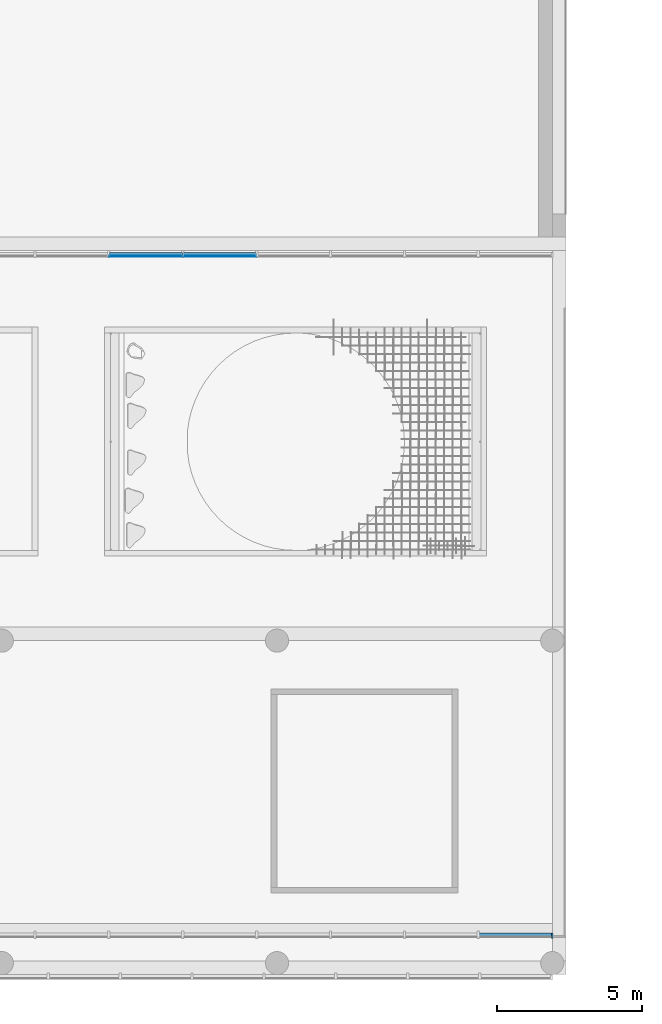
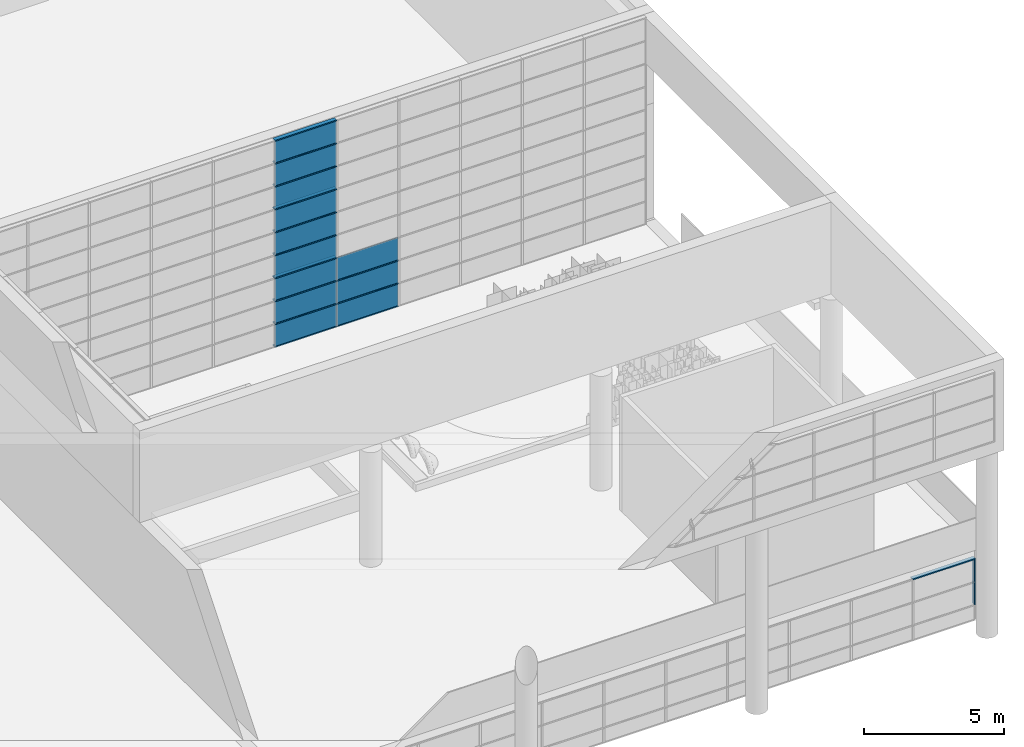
# One storey, part 55 of 105: 30 building element parts, 4 elements without a shape of their own.
"""IFC4 building model written with IfcOpenShell, lengths in millimetres."""

from ifc_helpers import new_model, entity, si_unit, converted_unit, derived_unit, direction, frame, origin_with_axes, place, context, subcontext, project, spatial, triangles, material, element, aggregate, save


model = new_model("IFC4")

# Units and contexts
model_context = context("Model", 3, precision=1e-05, world=origin_with_axes(), true_north=direction((0.0, 1.0)))
body_context = subcontext(model_context, "Body", "Model", "MODEL_VIEW")
ifc_project = project(units=[si_unit("LENGTHUNIT", "METRE", prefix="MILLI"), si_unit("AREAUNIT", "SQUARE_METRE"), si_unit("VOLUMEUNIT", "CUBIC_METRE"), converted_unit("PLANEANGLEUNIT", "DEGREE", entity("IfcLengthMeasure", 0.017453), si_unit("PLANEANGLEUNIT", "RADIAN"), dimensions=[0, 0, 0, 0, 0, 0, 0]), si_unit("SOLIDANGLEUNIT", "STERADIAN"), si_unit("MASSUNIT", "GRAM"), si_unit("TIMEUNIT", "SECOND"), si_unit("THERMODYNAMICTEMPERATUREUNIT", "DEGREE_CELSIUS"), si_unit("LUMINOUSINTENSITYUNIT", "LUMEN"), si_unit("POWERUNIT", "WATT"), derived_unit("THERMALTRANSMITTANCEUNIT", [(si_unit("POWERUNIT", "WATT"), 1), (si_unit("THERMODYNAMICTEMPERATUREUNIT", "KELVIN"), -1), (si_unit("AREAUNIT", "SQUARE_METRE"), -1)])], contexts=[model_context])

# Site, building, storey
site_placement = place(None, origin_with_axes())
site = spatial("IfcSite", under=ifc_project, at=site_placement, Name="Default Site", CompositionType="ELEMENT")
building_placement = place(site_placement, origin_with_axes())
building = spatial("IfcBuilding", under=site, at=building_placement, Name="Default Building", CompositionType="ELEMENT")
storey_placement = place(building_placement, origin_with_axes())
storey = spatial("IfcBuildingStorey", under=building, at=storey_placement, Name="OG - Story", CompositionType="ELEMENT", Elevation=0.0)

# Curtain wall, building element parts
curtain_wall_1_placement = place(storey_placement, origin_with_axes())
curtain_wall_1 = element("IfcCurtainWall", 1, at=curtain_wall_1_placement, inside=storey, Name="Fassade-001", PredefinedType="NOTDEFINED")
ifc_material_1 = material(Name="Blech")
building_element_part_1_placement = place(curtain_wall_1_placement, frame((52496.845873, -51289.262838, 0.0), z_axis=(0.0, 0.0, 1.0), x_axis=(1.0, 0.0, 0.0)))
building_element_part_1 = element("IfcBuildingElementPart", 2, at=building_element_part_1_placement, material=ifc_material_1, Name="Blech", PredefinedType="NOTDEFINED", context=body_context, shape_type="Tessellation", body=[
    triangles([(26779.545, -14.999, 1650.0), (26779.545, 15.0, 1650.0), (26809.545, 133.0, 1650.0), (26809.545, -34.999, 1650.0), (26759.545, -34.999, 1650.0), (26759.545, -14.999, 1650.0), (26759.545, 15.0, 1650.0), (26759.545, 133.0, 1650.0), (26779.545, 15.0, 650.0), (26779.545, -14.999, 650.0), (26759.545, -14.999, 650.0), (26759.545, -34.999, 650.0), (26809.545, -34.999, 650.0), (26809.545, 133.0, 650.0), (26759.545, 133.0, 650.0), (26759.545, 15.0, 650.0)], [[1, 2, 3], [1, 3, 4], [1, 4, 5], [1, 5, 6], [7, 8, 3], [7, 3, 2], [1, 2, 9], [1, 9, 10], [11, 6, 1], [11, 1, 10], [6, 11, 12], [6, 12, 5], [13, 4, 5], [13, 5, 12], [14, 3, 4], [14, 4, 13], [15, 8, 3], [15, 3, 14], [16, 7, 8], [16, 8, 15], [2, 7, 16], [2, 16, 9], [10, 9, 14], [10, 14, 13], [10, 13, 12], [10, 12, 11], [16, 15, 14], [16, 14, 9]], closed=False),
])
building_element_part_2_placement = place(curtain_wall_1_placement, frame((52496.845873, -51289.262838, 0.0), z_axis=(0.0, 0.0, 1.0), x_axis=(1.0, 0.0, 0.0)))
building_element_part_2 = element("IfcBuildingElementPart", 3, at=building_element_part_2_placement, material=ifc_material_1, Name="Blech", PredefinedType="NOTDEFINED", context=body_context, shape_type="Tessellation", body=[
    triangles([(26759.545, 15.0, 2625.0), (26759.545, 133.0, 2625.0), (26779.545, 15.0, 2645.0), (26809.545, 133.0, 2675.0), (26779.545, -14.999, 2645.0), (26809.545, -34.999, 2675.0), (26759.545, -14.999, 2625.0), (26759.545, -34.999, 2625.0), (26779.545, 15.0, 1650.0), (26779.545, -14.999, 1650.0), (26759.545, -14.999, 1650.0), (26759.545, -34.999, 1650.0), (26809.545, -34.999, 1650.0), (26809.545, 133.0, 1650.0), (26759.545, 133.0, 1650.0), (26759.545, 15.0, 1650.0)], [[1, 2, 3], [3, 2, 4], [3, 4, 5], [5, 4, 6], [5, 6, 7], [7, 6, 8], [5, 3, 9], [5, 9, 10], [11, 7, 5], [11, 5, 10], [7, 11, 12], [7, 12, 8], [13, 6, 8], [13, 8, 12], [14, 4, 6], [14, 6, 13], [15, 2, 4], [15, 4, 14], [16, 1, 2], [16, 2, 15], [3, 1, 16], [3, 16, 9], [10, 9, 14], [10, 14, 13], [10, 13, 12], [10, 12, 11], [16, 15, 14], [16, 14, 9]], closed=False),
])
building_element_part_3_placement = place(curtain_wall_1_placement, frame((52496.845873, -51289.262838, 0.0), z_axis=(0.0, 0.0, 1.0), x_axis=(1.0, 0.0, 0.0)))
building_element_part_3 = element("IfcBuildingElementPart", 4, at=building_element_part_3_placement, material=ifc_material_1, Name="Blech", PredefinedType="NOTDEFINED", context=body_context, shape_type="Tessellation", body=[
    triangles([(26759.545, 15.0, 2625.0), (26759.545, 133.0, 2625.0), (26779.545, 15.0, 2645.0), (26809.545, 133.0, 2675.0), (26779.545, -14.999, 2645.0), (26809.545, -34.999, 2675.0), (26759.545, -14.999, 2625.0), (26759.545, -34.999, 2625.0), (24233.636, 15.0, 2645.0), (24233.636, 15.0, 2625.0), (24233.636, 133.0, 2625.0), (24233.636, 133.0, 2675.0), (24233.636, -34.999, 2675.0), (24233.636, -34.999, 2625.0), (24233.636, -14.999, 2625.0), (24233.636, -14.999, 2645.0)], [[1, 2, 3], [3, 2, 4], [3, 4, 5], [5, 4, 6], [5, 6, 7], [7, 6, 8], [3, 9, 10], [3, 10, 1], [10, 11, 2], [10, 2, 1], [11, 12, 4], [11, 4, 2], [12, 13, 6], [12, 6, 4], [13, 14, 8], [13, 8, 6], [7, 8, 14], [7, 14, 15], [15, 16, 5], [15, 5, 7], [5, 16, 9], [5, 9, 3], [10, 11, 9], [9, 11, 12], [9, 12, 16], [16, 12, 13], [16, 13, 15], [15, 13, 14]], closed=False),
])
aggregate(curtain_wall_1, [building_element_part_1, building_element_part_2, building_element_part_3])

curtain_wall_2_placement = place(storey_placement, origin_with_axes())
curtain_wall_2 = element("IfcCurtainWall", 5, at=curtain_wall_2_placement, inside=storey, Name="Fassade-005", PredefinedType="NOTDEFINED")
ifc_material_2 = material(Name="Normalglas")
building_element_part_4_placement = place(curtain_wall_2_placement, frame((52496.845873, -27789.262838, 3000.0), z_axis=(0.0, 0.0, 1.0), x_axis=(1.0, 0.0, 0.0)))
building_element_part_4 = element("IfcBuildingElementPart", 6, at=building_element_part_4_placement, material=ifc_material_2, Name="Normalglas", PredefinedType="NOTDEFINED", context=body_context, shape_type="Tessellation", body=[
    triangles([(14020.0, 15.0, 995.0), (11489.091, 15.0, 995.0), (11489.091, -14.999, 995.0), (14020.0, -14.999, 995.0), (14020.0, 15.0, 5.0), (11489.091, 15.0, 5.0), (11489.091, -14.999, 5.0), (14020.0, -14.999, 5.0)], [[1, 2, 3], [1, 3, 4], [1, 5, 6], [1, 6, 2], [2, 6, 7], [2, 7, 3], [4, 3, 7], [4, 7, 8], [5, 1, 4], [5, 4, 8], [6, 5, 8], [6, 8, 7]], closed=False),
])
building_element_part_5_placement = place(curtain_wall_2_placement, frame((52496.845873, -27789.262838, 3000.0), z_axis=(0.0, 0.0, 1.0), x_axis=(1.0, 0.0, 0.0)))
building_element_part_5 = element("IfcBuildingElementPart", 7, at=building_element_part_5_placement, material=ifc_material_2, Name="Normalglas", PredefinedType="NOTDEFINED", context=body_context, shape_type="Tessellation", body=[
    triangles([(16570.909, 15.0, 995.0), (14040.0, 15.0, 995.0), (14040.0, -14.999, 995.0), (16570.909, -14.999, 995.0), (16570.909, 15.0, 5.0), (14040.0, 15.0, 5.0), (14040.0, -14.999, 5.0), (16570.909, -14.999, 5.0)], [[1, 2, 3], [1, 3, 4], [1, 5, 6], [1, 6, 2], [2, 6, 7], [2, 7, 3], [4, 3, 7], [4, 7, 8], [5, 1, 4], [5, 4, 8], [6, 5, 8], [6, 8, 7]], closed=False),
])
building_element_part_6_placement = place(curtain_wall_2_placement, frame((52496.845873, -27789.262838, 3000.0), z_axis=(0.0, 0.0, 1.0), x_axis=(1.0, 0.0, 0.0)))
building_element_part_6 = element("IfcBuildingElementPart", 8, at=building_element_part_6_placement, material=ifc_material_2, Name="Normalglas", PredefinedType="NOTDEFINED", context=body_context, shape_type="Tessellation", body=[
    triangles([(14020.0, 15.0, 1995.0), (11489.091, 15.0, 1995.0), (11489.091, -14.999, 1995.0), (14020.0, -14.999, 1995.0), (14020.0, 15.0, 1005.0), (11489.091, 15.0, 1005.0), (11489.091, -14.999, 1005.0), (14020.0, -14.999, 1005.0)], [[1, 2, 3], [1, 3, 4], [1, 5, 6], [1, 6, 2], [2, 6, 7], [2, 7, 3], [4, 3, 7], [4, 7, 8], [5, 1, 4], [5, 4, 8], [6, 5, 8], [6, 8, 7]], closed=False),
])
building_element_part_7_placement = place(curtain_wall_2_placement, frame((52496.845873, -27789.262838, 3000.0), z_axis=(0.0, 0.0, 1.0), x_axis=(1.0, 0.0, 0.0)))
building_element_part_7 = element("IfcBuildingElementPart", 9, at=building_element_part_7_placement, material=ifc_material_2, Name="Normalglas", PredefinedType="NOTDEFINED", context=body_context, shape_type="Tessellation", body=[
    triangles([(16570.909, 15.0, 1995.0), (14040.0, 15.0, 1995.0), (14040.0, -14.999, 1995.0), (16570.909, -14.999, 1995.0), (16570.909, 15.0, 1005.0), (14040.0, 15.0, 1005.0), (14040.0, -14.999, 1005.0), (16570.909, -14.999, 1005.0)], [[1, 2, 3], [1, 3, 4], [1, 5, 6], [1, 6, 2], [2, 6, 7], [2, 7, 3], [4, 3, 7], [4, 7, 8], [5, 1, 4], [5, 4, 8], [6, 5, 8], [6, 8, 7]], closed=False),
])
building_element_part_8_placement = place(curtain_wall_2_placement, frame((52496.845873, -27789.262838, 3000.0), z_axis=(0.0, 0.0, 1.0), x_axis=(1.0, 0.0, 0.0)))
building_element_part_8 = element("IfcBuildingElementPart", 10, at=building_element_part_8_placement, material=ifc_material_2, Name="Normalglas", PredefinedType="NOTDEFINED", context=body_context, shape_type="Tessellation", body=[
    triangles([(14020.0, 15.0, 2995.0), (11489.091, 15.0, 2995.0), (11489.091, -14.999, 2995.0), (14020.0, -14.999, 2995.0), (14020.0, 15.0, 2005.0), (11489.091, 15.0, 2005.0), (11489.091, -14.999, 2005.0), (14020.0, -14.999, 2005.0)], [[1, 2, 3], [1, 3, 4], [1, 5, 6], [1, 6, 2], [2, 6, 7], [2, 7, 3], [4, 3, 7], [4, 7, 8], [5, 1, 4], [5, 4, 8], [6, 5, 8], [6, 8, 7]], closed=False),
])
building_element_part_9_placement = place(curtain_wall_2_placement, frame((52496.845873, -27789.262838, 3000.0), z_axis=(0.0, 0.0, 1.0), x_axis=(1.0, 0.0, 0.0)))
building_element_part_9 = element("IfcBuildingElementPart", 11, at=building_element_part_9_placement, material=ifc_material_2, Name="Normalglas", PredefinedType="NOTDEFINED", context=body_context, shape_type="Tessellation", body=[
    triangles([(16570.909, 15.0, 2995.0), (14040.0, 15.0, 2995.0), (14040.0, -14.999, 2995.0), (16570.909, -14.999, 2995.0), (16570.909, 15.0, 2005.0), (14040.0, 15.0, 2005.0), (14040.0, -14.999, 2005.0), (16570.909, -14.999, 2005.0)], [[1, 2, 3], [1, 3, 4], [1, 5, 6], [1, 6, 2], [2, 6, 7], [2, 7, 3], [4, 3, 7], [4, 7, 8], [5, 1, 4], [5, 4, 8], [6, 5, 8], [6, 8, 7]], closed=False),
])
building_element_part_10_placement = place(curtain_wall_2_placement, frame((52496.845873, -27789.262838, 3000.0), z_axis=(0.0, 0.0, 1.0), x_axis=(1.0, 0.0, 0.0)))
building_element_part_10 = element("IfcBuildingElementPart", 12, at=building_element_part_10_placement, material=ifc_material_1, Name="Blech", PredefinedType="NOTDEFINED", context=body_context, shape_type="Tessellation", body=[
    triangles([(14030.0, 15.0, 25.0), (14030.0, 133.0, 25.0), (14030.0, 15.0, 5.0), (14030.0, 133.0, -24.999), (14030.0, -14.999, 5.0), (14030.0, -34.999, -24.999), (14030.0, -14.999, 25.0), (14030.0, -34.999, 25.0), (11479.091, 15.0, 5.0), (11479.091, -14.999, 5.0), (11479.091, -14.999, 25.0), (11479.091, -34.999, 25.0), (11479.091, -34.999, -24.999), (11479.091, 133.0, -24.999), (11479.091, 133.0, 25.0), (11479.091, 15.0, 25.0)], [[1, 2, 3], [3, 2, 4], [3, 4, 5], [5, 4, 6], [5, 6, 7], [7, 6, 8], [5, 3, 9], [5, 9, 10], [11, 7, 5], [11, 5, 10], [7, 11, 12], [7, 12, 8], [13, 6, 8], [13, 8, 12], [14, 4, 6], [14, 6, 13], [15, 2, 4], [15, 4, 14], [16, 1, 2], [16, 2, 15], [3, 1, 16], [3, 16, 9], [16, 15, 9], [9, 15, 14], [9, 14, 10], [10, 14, 13], [10, 13, 11], [11, 13, 12]], closed=False),
])
building_element_part_11_placement = place(curtain_wall_2_placement, frame((52496.845873, -27789.262838, 3000.0), z_axis=(0.0, 0.0, 1.0), x_axis=(1.0, 0.0, 0.0)))
building_element_part_11 = element("IfcBuildingElementPart", 13, at=building_element_part_11_placement, material=ifc_material_1, Name="Blech", PredefinedType="NOTDEFINED", context=body_context, shape_type="Tessellation", body=[
    triangles([(16580.909, 15.0, 25.0), (16580.909, 133.0, 25.0), (16580.909, 15.0, 5.0), (16580.909, 133.0, -24.999), (16580.909, -14.999, 5.0), (16580.909, -34.999, -24.999), (16580.909, -14.999, 25.0), (16580.909, -34.999, 25.0), (14030.0, 15.0, 5.0), (14030.0, -14.999, 5.0), (14030.0, -14.999, 25.0), (14030.0, -34.999, 25.0), (14030.0, -34.999, -24.999), (14030.0, 133.0, -24.999), (14030.0, 133.0, 25.0), (14030.0, 15.0, 25.0)], [[1, 2, 3], [3, 2, 4], [3, 4, 5], [5, 4, 6], [5, 6, 7], [7, 6, 8], [5, 3, 9], [5, 9, 10], [11, 7, 5], [11, 5, 10], [7, 11, 12], [7, 12, 8], [13, 6, 8], [13, 8, 12], [14, 4, 6], [14, 6, 13], [15, 2, 4], [15, 4, 14], [16, 1, 2], [16, 2, 15], [3, 1, 16], [3, 16, 9], [16, 15, 9], [9, 15, 14], [9, 14, 10], [10, 14, 13], [10, 13, 11], [11, 13, 12]], closed=False),
])
building_element_part_12_placement = place(curtain_wall_2_placement, frame((52496.845873, -27789.262838, 3000.0), z_axis=(0.0, 0.0, 1.0), x_axis=(1.0, 0.0, 0.0)))
building_element_part_12 = element("IfcBuildingElementPart", 14, at=building_element_part_12_placement, material=ifc_material_1, Name="Blech", PredefinedType="NOTDEFINED", context=body_context, shape_type="Tessellation", body=[
    triangles([(14030.0, 133.0, 1025.0), (14030.0, 15.0, 1025.0), (14030.0, 133.0, 975.0), (14030.0, 15.0, 1005.0), (14030.0, 15.0, 995.0), (14030.0, -14.999, 1005.0), (14030.0, -14.999, 995.0), (14030.0, -14.999, 975.0), (14030.0, -14.999, 1025.0), (14030.0, -34.999, 1025.0), (14030.0, -34.999, 975.0), (14030.0, 15.0, 975.0), (11479.091, 15.0, 995.0), (11479.091, 15.0, 975.0), (11479.091, 133.0, 975.0), (11479.091, 133.0, 1025.0), (11479.091, 15.0, 1025.0), (11479.091, 15.0, 1005.0), (11479.091, -14.999, 1005.0), (11479.091, -14.999, 1025.0), (11479.091, -34.999, 1025.0), (11479.091, -34.999, 975.0), (11479.091, -14.999, 975.0), (11479.091, -14.999, 995.0)], [[1, 2, 3], [3, 2, 4], [3, 4, 5], [5, 4, 6], [5, 6, 7], [8, 9, 10], [8, 10, 11], [3, 5, 12], [12, 5, 13], [12, 13, 14], [12, 14, 15], [12, 15, 3], [1, 3, 15], [1, 15, 16], [2, 1, 16], [2, 16, 17], [2, 17, 18], [2, 18, 4], [4, 18, 19], [4, 19, 6], [9, 6, 19], [9, 19, 20], [20, 21, 10], [20, 10, 9], [11, 10, 21], [11, 21, 22], [23, 8, 11], [23, 11, 22], [7, 8, 23], [7, 23, 24], [5, 7, 24], [5, 24, 13], [15, 14, 16], [16, 14, 13], [16, 13, 18], [18, 13, 24], [18, 24, 19], [20, 23, 22], [20, 22, 21], [16, 18, 17]], closed=False),
])
building_element_part_13_placement = place(curtain_wall_2_placement, frame((52496.845873, -27789.262838, 3000.0), z_axis=(0.0, 0.0, 1.0), x_axis=(1.0, 0.0, 0.0)))
building_element_part_13 = element("IfcBuildingElementPart", 15, at=building_element_part_13_placement, material=ifc_material_1, Name="Blech", PredefinedType="NOTDEFINED", context=body_context, shape_type="Tessellation", body=[
    triangles([(16580.909, 133.0, 1025.0), (16580.909, 15.0, 1025.0), (16580.909, 133.0, 975.0), (16580.909, 15.0, 1005.0), (16580.909, 15.0, 995.0), (16580.909, -14.999, 1005.0), (16580.909, -14.999, 995.0), (16580.909, -14.999, 975.0), (16580.909, -14.999, 1025.0), (16580.909, -34.999, 1025.0), (16580.909, -34.999, 975.0), (16580.909, 15.0, 975.0), (14030.0, 15.0, 995.0), (14030.0, 15.0, 975.0), (14030.0, 133.0, 975.0), (14030.0, 133.0, 1025.0), (14030.0, 15.0, 1025.0), (14030.0, 15.0, 1005.0), (14030.0, -14.999, 1005.0), (14030.0, -14.999, 1025.0), (14030.0, -34.999, 1025.0), (14030.0, -34.999, 975.0), (14030.0, -14.999, 975.0), (14030.0, -14.999, 995.0)], [[1, 2, 3], [3, 2, 4], [3, 4, 5], [5, 4, 6], [5, 6, 7], [8, 9, 10], [8, 10, 11], [3, 5, 12], [12, 5, 13], [12, 13, 14], [12, 14, 15], [12, 15, 3], [1, 3, 15], [1, 15, 16], [2, 1, 16], [2, 16, 17], [2, 17, 18], [2, 18, 4], [4, 18, 19], [4, 19, 6], [9, 6, 19], [9, 19, 20], [20, 21, 10], [20, 10, 9], [11, 10, 21], [11, 21, 22], [23, 8, 11], [23, 11, 22], [7, 8, 23], [7, 23, 24], [5, 7, 24], [5, 24, 13], [15, 14, 16], [16, 14, 13], [16, 13, 18], [18, 13, 24], [18, 24, 19], [20, 23, 22], [20, 22, 21], [16, 18, 17]], closed=False),
])
building_element_part_14_placement = place(curtain_wall_2_placement, frame((52496.845873, -27789.262838, 3000.0), z_axis=(0.0, 0.0, 1.0), x_axis=(1.0, 0.0, 0.0)))
building_element_part_14 = element("IfcBuildingElementPart", 16, at=building_element_part_14_placement, material=ifc_material_1, Name="Blech", PredefinedType="NOTDEFINED", context=body_context, shape_type="Tessellation", body=[
    triangles([(14030.0, 133.0, 2025.0), (14030.0, 15.0, 2025.0), (14030.0, 133.0, 1975.0), (14030.0, 15.0, 2005.0), (14030.0, 15.0, 1995.0), (14030.0, -14.999, 2005.0), (14030.0, -14.999, 1995.0), (14030.0, -14.999, 1975.0), (14030.0, -14.999, 2025.0), (14030.0, -34.999, 2025.0), (14030.0, -34.999, 1975.0), (14030.0, 15.0, 1975.0), (11479.091, 15.0, 1995.0), (11479.091, 15.0, 1975.0), (11479.091, 133.0, 1975.0), (11479.091, 133.0, 2025.0), (11479.091, 15.0, 2025.0), (11479.091, 15.0, 2005.0), (11479.091, -14.999, 2005.0), (11479.091, -14.999, 2025.0), (11479.091, -34.999, 2025.0), (11479.091, -34.999, 1975.0), (11479.091, -14.999, 1975.0), (11479.091, -14.999, 1995.0)], [[1, 2, 3], [3, 2, 4], [3, 4, 5], [5, 4, 6], [5, 6, 7], [8, 9, 10], [8, 10, 11], [3, 5, 12], [12, 5, 13], [12, 13, 14], [12, 14, 15], [12, 15, 3], [1, 3, 15], [1, 15, 16], [2, 1, 16], [2, 16, 17], [2, 17, 18], [2, 18, 4], [4, 18, 19], [4, 19, 6], [9, 6, 19], [9, 19, 20], [20, 21, 10], [20, 10, 9], [11, 10, 21], [11, 21, 22], [23, 8, 11], [23, 11, 22], [7, 8, 23], [7, 23, 24], [5, 7, 24], [5, 24, 13], [15, 14, 16], [16, 14, 13], [16, 13, 18], [18, 13, 24], [18, 24, 19], [20, 23, 22], [20, 22, 21], [16, 18, 17]], closed=False),
])
building_element_part_15_placement = place(curtain_wall_2_placement, frame((52496.845873, -27789.262838, 3000.0), z_axis=(0.0, 0.0, 1.0), x_axis=(1.0, 0.0, 0.0)))
building_element_part_15 = element("IfcBuildingElementPart", 17, at=building_element_part_15_placement, material=ifc_material_1, Name="Blech", PredefinedType="NOTDEFINED", context=body_context, shape_type="Tessellation", body=[
    triangles([(14030.0, 15.0, 2975.0), (14030.0, 133.0, 2975.0), (14030.0, 15.0, 2995.0), (14030.0, 133.0, 3025.0), (14030.0, -14.999, 2995.0), (14030.0, -34.999, 3025.0), (14030.0, -14.999, 2975.0), (14030.0, -34.999, 2975.0), (11479.091, 15.0, 2995.0), (11479.091, 15.0, 2975.0), (11479.091, 133.0, 2975.0), (11479.091, 133.0, 3025.0), (11479.091, -34.999, 3025.0), (11479.091, -34.999, 2975.0), (11479.091, -14.999, 2975.0), (11479.091, -14.999, 2995.0)], [[1, 2, 3], [3, 2, 4], [3, 4, 5], [5, 4, 6], [5, 6, 7], [7, 6, 8], [3, 9, 10], [3, 10, 1], [10, 11, 2], [10, 2, 1], [11, 12, 4], [11, 4, 2], [12, 13, 6], [12, 6, 4], [13, 14, 8], [13, 8, 6], [7, 8, 14], [7, 14, 15], [15, 16, 5], [15, 5, 7], [5, 16, 9], [5, 9, 3], [10, 11, 9], [9, 11, 12], [9, 12, 16], [16, 12, 13], [16, 13, 15], [15, 13, 14]], closed=False),
])
building_element_part_16_placement = place(curtain_wall_2_placement, frame((52496.845873, -27789.262838, 3000.0), z_axis=(0.0, 0.0, 1.0), x_axis=(1.0, 0.0, 0.0)))
building_element_part_16 = element("IfcBuildingElementPart", 18, at=building_element_part_16_placement, material=ifc_material_1, Name="Blech", PredefinedType="NOTDEFINED", context=body_context, shape_type="Tessellation", body=[
    triangles([(16580.909, 133.0, 2025.0), (16580.909, 15.0, 2025.0), (16580.909, 133.0, 1975.0), (16580.909, 15.0, 2005.0), (16580.909, 15.0, 1995.0), (16580.909, -14.999, 2005.0), (16580.909, -14.999, 1995.0), (16580.909, -14.999, 1975.0), (16580.909, -14.999, 2025.0), (16580.909, -34.999, 2025.0), (16580.909, -34.999, 1975.0), (16580.909, 15.0, 1975.0), (14030.0, 15.0, 1995.0), (14030.0, 15.0, 1975.0), (14030.0, 133.0, 1975.0), (14030.0, 133.0, 2025.0), (14030.0, 15.0, 2025.0), (14030.0, 15.0, 2005.0), (14030.0, -14.999, 2005.0), (14030.0, -14.999, 2025.0), (14030.0, -34.999, 2025.0), (14030.0, -34.999, 1975.0), (14030.0, -14.999, 1975.0), (14030.0, -14.999, 1995.0)], [[1, 2, 3], [3, 2, 4], [3, 4, 5], [5, 4, 6], [5, 6, 7], [8, 9, 10], [8, 10, 11], [3, 5, 12], [12, 5, 13], [12, 13, 14], [12, 14, 15], [12, 15, 3], [1, 3, 15], [1, 15, 16], [2, 1, 16], [2, 16, 17], [2, 17, 18], [2, 18, 4], [4, 18, 19], [4, 19, 6], [9, 6, 19], [9, 19, 20], [20, 21, 10], [20, 10, 9], [11, 10, 21], [11, 21, 22], [23, 8, 11], [23, 11, 22], [7, 8, 23], [7, 23, 24], [5, 7, 24], [5, 24, 13], [15, 14, 16], [16, 14, 13], [16, 13, 18], [18, 13, 24], [18, 24, 19], [20, 23, 22], [20, 22, 21], [16, 18, 17]], closed=False),
])
aggregate(curtain_wall_2, [building_element_part_4, building_element_part_5, building_element_part_6, building_element_part_7, building_element_part_8, building_element_part_9, building_element_part_10, building_element_part_11, building_element_part_12, building_element_part_13, building_element_part_14, building_element_part_15, building_element_part_16])

curtain_wall_3_placement = place(storey_placement, origin_with_axes())
curtain_wall_3 = element("IfcCurtainWall", 19, at=curtain_wall_3_placement, inside=storey, Name="Fassade-005", PredefinedType="NOTDEFINED")
building_element_part_17_placement = place(curtain_wall_3_placement, frame((52496.845873, -27789.262838, 6000.0), z_axis=(0.0, 0.0, 1.0), x_axis=(1.0, 0.0, 0.0)))
building_element_part_17 = element("IfcBuildingElementPart", 20, at=building_element_part_17_placement, material=ifc_material_2, Name="Normalglas", PredefinedType="NOTDEFINED", context=body_context, shape_type="Tessellation", body=[
    triangles([(14020.0, 15.0, 995.0), (11489.091, 15.0, 995.0), (11489.091, -14.999, 995.0), (14020.0, -14.999, 995.0), (14020.0, 15.0, 5.0), (11489.091, 15.0, 5.0), (11489.091, -14.999, 5.0), (14020.0, -14.999, 5.0)], [[1, 2, 3], [1, 3, 4], [1, 5, 6], [1, 6, 2], [2, 6, 7], [2, 7, 3], [4, 3, 7], [4, 7, 8], [5, 1, 4], [5, 4, 8], [6, 5, 8], [6, 8, 7]], closed=False),
])
building_element_part_18_placement = place(curtain_wall_3_placement, frame((52496.845873, -27789.262838, 6000.0), z_axis=(0.0, 0.0, 1.0), x_axis=(1.0, 0.0, 0.0)))
building_element_part_18 = element("IfcBuildingElementPart", 21, at=building_element_part_18_placement, material=ifc_material_2, Name="Normalglas", PredefinedType="NOTDEFINED", context=body_context, shape_type="Tessellation", body=[
    triangles([(14020.0, 15.0, 1995.0), (11489.091, 15.0, 1995.0), (11489.091, -14.999, 1995.0), (14020.0, -14.999, 1995.0), (14020.0, 15.0, 1005.0), (11489.091, 15.0, 1005.0), (11489.091, -14.999, 1005.0), (14020.0, -14.999, 1005.0)], [[1, 2, 3], [1, 3, 4], [1, 5, 6], [1, 6, 2], [2, 6, 7], [2, 7, 3], [4, 3, 7], [4, 7, 8], [5, 1, 4], [5, 4, 8], [6, 5, 8], [6, 8, 7]], closed=False),
])
building_element_part_19_placement = place(curtain_wall_3_placement, frame((52496.845873, -27789.262838, 6000.0), z_axis=(0.0, 0.0, 1.0), x_axis=(1.0, 0.0, 0.0)))
building_element_part_19 = element("IfcBuildingElementPart", 22, at=building_element_part_19_placement, material=ifc_material_2, Name="Normalglas", PredefinedType="NOTDEFINED", context=body_context, shape_type="Tessellation", body=[
    triangles([(14020.0, 15.0, 2995.0), (11489.091, 15.0, 2995.0), (11489.091, -14.999, 2995.0), (14020.0, -14.999, 2995.0), (14020.0, 15.0, 2005.0), (11489.091, 15.0, 2005.0), (11489.091, -14.999, 2005.0), (14020.0, -14.999, 2005.0)], [[1, 2, 3], [1, 3, 4], [1, 5, 6], [1, 6, 2], [2, 6, 7], [2, 7, 3], [4, 3, 7], [4, 7, 8], [5, 1, 4], [5, 4, 8], [6, 5, 8], [6, 8, 7]], closed=False),
])
building_element_part_20_placement = place(curtain_wall_3_placement, frame((52496.845873, -27789.262838, 6000.0), z_axis=(0.0, 0.0, 1.0), x_axis=(1.0, 0.0, 0.0)))
building_element_part_20 = element("IfcBuildingElementPart", 23, at=building_element_part_20_placement, material=ifc_material_1, Name="Blech", PredefinedType="NOTDEFINED", context=body_context, shape_type="Tessellation", body=[
    triangles([(14030.0, 15.0, 25.0), (14030.0, 133.0, 25.0), (14030.0, 15.0, 5.0), (14030.0, 133.0, -24.999), (14030.0, -14.999, 5.0), (14030.0, -34.999, -24.999), (14030.0, -14.999, 25.0), (14030.0, -34.999, 25.0), (11479.091, 15.0, 5.0), (11479.091, -14.999, 5.0), (11479.091, -14.999, 25.0), (11479.091, -34.999, 25.0), (11479.091, -34.999, -24.999), (11479.091, 133.0, -24.999), (11479.091, 133.0, 25.0), (11479.091, 15.0, 25.0)], [[1, 2, 3], [3, 2, 4], [3, 4, 5], [5, 4, 6], [5, 6, 7], [7, 6, 8], [5, 3, 9], [5, 9, 10], [11, 7, 5], [11, 5, 10], [7, 11, 12], [7, 12, 8], [13, 6, 8], [13, 8, 12], [14, 4, 6], [14, 6, 13], [15, 2, 4], [15, 4, 14], [16, 1, 2], [16, 2, 15], [3, 1, 16], [3, 16, 9], [16, 15, 9], [9, 15, 14], [9, 14, 10], [10, 14, 13], [10, 13, 11], [11, 13, 12]], closed=False),
])
building_element_part_21_placement = place(curtain_wall_3_placement, frame((52496.845873, -27789.262838, 6000.0), z_axis=(0.0, 0.0, 1.0), x_axis=(1.0, 0.0, 0.0)))
building_element_part_21 = element("IfcBuildingElementPart", 24, at=building_element_part_21_placement, material=ifc_material_1, Name="Blech", PredefinedType="NOTDEFINED", context=body_context, shape_type="Tessellation", body=[
    triangles([(14030.0, 133.0, 1025.0), (14030.0, 15.0, 1025.0), (14030.0, 133.0, 975.0), (14030.0, 15.0, 1005.0), (14030.0, 15.0, 995.0), (14030.0, -14.999, 1005.0), (14030.0, -14.999, 995.0), (14030.0, -14.999, 975.0), (14030.0, -14.999, 1025.0), (14030.0, -34.999, 1025.0), (14030.0, -34.999, 975.0), (14030.0, 15.0, 975.0), (11479.091, 15.0, 995.0), (11479.091, 15.0, 975.0), (11479.091, 133.0, 975.0), (11479.091, 133.0, 1025.0), (11479.091, 15.0, 1025.0), (11479.091, 15.0, 1005.0), (11479.091, -14.999, 1005.0), (11479.091, -14.999, 1025.0), (11479.091, -34.999, 1025.0), (11479.091, -34.999, 975.0), (11479.091, -14.999, 975.0), (11479.091, -14.999, 995.0)], [[1, 2, 3], [3, 2, 4], [3, 4, 5], [5, 4, 6], [5, 6, 7], [8, 9, 10], [8, 10, 11], [3, 5, 12], [12, 5, 13], [12, 13, 14], [12, 14, 15], [12, 15, 3], [1, 3, 15], [1, 15, 16], [2, 1, 16], [2, 16, 17], [2, 17, 18], [2, 18, 4], [4, 18, 19], [4, 19, 6], [9, 6, 19], [9, 19, 20], [20, 21, 10], [20, 10, 9], [11, 10, 21], [11, 21, 22], [23, 8, 11], [23, 11, 22], [7, 8, 23], [7, 23, 24], [5, 7, 24], [5, 24, 13], [15, 14, 16], [16, 14, 13], [16, 13, 18], [18, 13, 24], [18, 24, 19], [20, 23, 22], [20, 22, 21], [16, 18, 17]], closed=False),
])
building_element_part_22_placement = place(curtain_wall_3_placement, frame((52496.845873, -27789.262838, 6000.0), z_axis=(0.0, 0.0, 1.0), x_axis=(1.0, 0.0, 0.0)))
building_element_part_22 = element("IfcBuildingElementPart", 25, at=building_element_part_22_placement, material=ifc_material_1, Name="Blech", PredefinedType="NOTDEFINED", context=body_context, shape_type="Tessellation", body=[
    triangles([(14030.0, 133.0, 2025.0), (14030.0, 15.0, 2025.0), (14030.0, 133.0, 1975.0), (14030.0, 15.0, 2005.0), (14030.0, 15.0, 1995.0), (14030.0, -14.999, 2005.0), (14030.0, -14.999, 1995.0), (14030.0, -14.999, 1975.0), (14030.0, -14.999, 2025.0), (14030.0, -34.999, 2025.0), (14030.0, -34.999, 1975.0), (14030.0, 15.0, 1975.0), (11479.091, 15.0, 1995.0), (11479.091, 15.0, 1975.0), (11479.091, 133.0, 1975.0), (11479.091, 133.0, 2025.0), (11479.091, 15.0, 2025.0), (11479.091, 15.0, 2005.0), (11479.091, -14.999, 2005.0), (11479.091, -14.999, 2025.0), (11479.091, -34.999, 2025.0), (11479.091, -34.999, 1975.0), (11479.091, -14.999, 1975.0), (11479.091, -14.999, 1995.0)], [[1, 2, 3], [3, 2, 4], [3, 4, 5], [5, 4, 6], [5, 6, 7], [8, 9, 10], [8, 10, 11], [3, 5, 12], [12, 5, 13], [12, 13, 14], [12, 14, 15], [12, 15, 3], [1, 3, 15], [1, 15, 16], [2, 1, 16], [2, 16, 17], [2, 17, 18], [2, 18, 4], [4, 18, 19], [4, 19, 6], [9, 6, 19], [9, 19, 20], [20, 21, 10], [20, 10, 9], [11, 10, 21], [11, 21, 22], [23, 8, 11], [23, 11, 22], [7, 8, 23], [7, 23, 24], [5, 7, 24], [5, 24, 13], [15, 14, 16], [16, 14, 13], [16, 13, 18], [18, 13, 24], [18, 24, 19], [20, 23, 22], [20, 22, 21], [16, 18, 17]], closed=False),
])
building_element_part_23_placement = place(curtain_wall_3_placement, frame((52496.845873, -27789.262838, 6000.0), z_axis=(0.0, 0.0, 1.0), x_axis=(1.0, 0.0, 0.0)))
building_element_part_23 = element("IfcBuildingElementPart", 26, at=building_element_part_23_placement, material=ifc_material_1, Name="Blech", PredefinedType="NOTDEFINED", context=body_context, shape_type="Tessellation", body=[
    triangles([(14030.0, 15.0, 2975.0), (14030.0, 133.0, 2975.0), (14030.0, 15.0, 2995.0), (14030.0, 133.0, 3025.0), (14030.0, -14.999, 2995.0), (14030.0, -34.999, 3025.0), (14030.0, -14.999, 2975.0), (14030.0, -34.999, 2975.0), (11479.091, 15.0, 2995.0), (11479.091, 15.0, 2975.0), (11479.091, 133.0, 2975.0), (11479.091, 133.0, 3025.0), (11479.091, -34.999, 3025.0), (11479.091, -34.999, 2975.0), (11479.091, -14.999, 2975.0), (11479.091, -14.999, 2995.0)], [[1, 2, 3], [3, 2, 4], [3, 4, 5], [5, 4, 6], [5, 6, 7], [7, 6, 8], [3, 9, 10], [3, 10, 1], [10, 11, 2], [10, 2, 1], [11, 12, 4], [11, 4, 2], [12, 13, 6], [12, 6, 4], [13, 14, 8], [13, 8, 6], [7, 8, 14], [7, 14, 15], [15, 16, 5], [15, 5, 7], [5, 16, 9], [5, 9, 3], [10, 11, 9], [9, 11, 12], [9, 12, 16], [16, 12, 13], [16, 13, 15], [15, 13, 14]], closed=False),
])
aggregate(curtain_wall_3, [building_element_part_17, building_element_part_18, building_element_part_19, building_element_part_20, building_element_part_21, building_element_part_22, building_element_part_23])

curtain_wall_4_placement = place(storey_placement, origin_with_axes())
curtain_wall_4 = element("IfcCurtainWall", 27, at=curtain_wall_4_placement, inside=storey, Name="Fassade-005", PredefinedType="NOTDEFINED")
building_element_part_24_placement = place(curtain_wall_4_placement, frame((52496.845873, -27789.262838, 9000.0), z_axis=(0.0, 0.0, 1.0), x_axis=(1.0, 0.0, 0.0)))
building_element_part_24 = element("IfcBuildingElementPart", 28, at=building_element_part_24_placement, material=ifc_material_2, Name="Normalglas", PredefinedType="NOTDEFINED", context=body_context, shape_type="Tessellation", body=[
    triangles([(14020.0, 15.0, 995.0), (11489.091, 15.0, 995.0), (11489.091, -14.999, 995.0), (14020.0, -14.999, 995.0), (14020.0, 15.0, 5.0), (11489.091, 15.0, 5.0), (11489.091, -14.999, 5.0), (14020.0, -14.999, 5.0)], [[1, 2, 3], [1, 3, 4], [1, 5, 6], [1, 6, 2], [2, 6, 7], [2, 7, 3], [4, 3, 7], [4, 7, 8], [5, 1, 4], [5, 4, 8], [6, 5, 8], [6, 8, 7]], closed=False),
])
building_element_part_25_placement = place(curtain_wall_4_placement, frame((52496.845873, -27789.262838, 9000.0), z_axis=(0.0, 0.0, 1.0), x_axis=(1.0, 0.0, 0.0)))
building_element_part_25 = element("IfcBuildingElementPart", 29, at=building_element_part_25_placement, material=ifc_material_2, Name="Normalglas", PredefinedType="NOTDEFINED", context=body_context, shape_type="Tessellation", body=[
    triangles([(14020.0, 15.0, 1995.0), (11489.091, 15.0, 1995.0), (11489.091, -14.999, 1995.0), (14020.0, -14.999, 1995.0), (14020.0, 15.0, 1005.0), (11489.091, 15.0, 1005.0), (11489.091, -14.999, 1005.0), (14020.0, -14.999, 1005.0)], [[1, 2, 3], [1, 3, 4], [1, 5, 6], [1, 6, 2], [2, 6, 7], [2, 7, 3], [4, 3, 7], [4, 7, 8], [5, 1, 4], [5, 4, 8], [6, 5, 8], [6, 8, 7]], closed=False),
])
building_element_part_26_placement = place(curtain_wall_4_placement, frame((52496.845873, -27789.262838, 9000.0), z_axis=(0.0, 0.0, 1.0), x_axis=(1.0, 0.0, 0.0)))
building_element_part_26 = element("IfcBuildingElementPart", 30, at=building_element_part_26_placement, material=ifc_material_2, Name="Normalglas", PredefinedType="NOTDEFINED", context=body_context, shape_type="Tessellation", body=[
    triangles([(14020.0, 15.0, 2995.0), (11489.091, 15.0, 2995.0), (11489.091, -14.999, 2995.0), (14020.0, -14.999, 2995.0), (14020.0, 15.0, 2005.0), (11489.091, 15.0, 2005.0), (11489.091, -14.999, 2005.0), (14020.0, -14.999, 2005.0)], [[1, 2, 3], [1, 3, 4], [1, 5, 6], [1, 6, 2], [2, 6, 7], [2, 7, 3], [4, 3, 7], [4, 7, 8], [5, 1, 4], [5, 4, 8], [6, 5, 8], [6, 8, 7]], closed=False),
])
building_element_part_27_placement = place(curtain_wall_4_placement, frame((52496.845873, -27789.262838, 9000.0), z_axis=(0.0, 0.0, 1.0), x_axis=(1.0, 0.0, 0.0)))
building_element_part_27 = element("IfcBuildingElementPart", 31, at=building_element_part_27_placement, material=ifc_material_1, Name="Blech", PredefinedType="NOTDEFINED", context=body_context, shape_type="Tessellation", body=[
    triangles([(14030.0, 15.0, 25.0), (14030.0, 133.0, 25.0), (14030.0, 15.0, 5.0), (14030.0, 133.0, -24.999), (14030.0, -14.999, 5.0), (14030.0, -34.999, -24.999), (14030.0, -14.999, 25.0), (14030.0, -34.999, 25.0), (11479.091, 15.0, 5.0), (11479.091, -14.999, 5.0), (11479.091, -14.999, 25.0), (11479.091, -34.999, 25.0), (11479.091, -34.999, -24.999), (11479.091, 133.0, -24.999), (11479.091, 133.0, 25.0), (11479.091, 15.0, 25.0)], [[1, 2, 3], [3, 2, 4], [3, 4, 5], [5, 4, 6], [5, 6, 7], [7, 6, 8], [5, 3, 9], [5, 9, 10], [11, 7, 5], [11, 5, 10], [7, 11, 12], [7, 12, 8], [13, 6, 8], [13, 8, 12], [14, 4, 6], [14, 6, 13], [15, 2, 4], [15, 4, 14], [16, 1, 2], [16, 2, 15], [3, 1, 16], [3, 16, 9], [16, 15, 9], [9, 15, 14], [9, 14, 10], [10, 14, 13], [10, 13, 11], [11, 13, 12]], closed=False),
])
building_element_part_28_placement = place(curtain_wall_4_placement, frame((52496.845873, -27789.262838, 9000.0), z_axis=(0.0, 0.0, 1.0), x_axis=(1.0, 0.0, 0.0)))
building_element_part_28 = element("IfcBuildingElementPart", 32, at=building_element_part_28_placement, material=ifc_material_1, Name="Blech", PredefinedType="NOTDEFINED", context=body_context, shape_type="Tessellation", body=[
    triangles([(14030.0, 133.0, 1025.0), (14030.0, 15.0, 1025.0), (14030.0, 133.0, 975.0), (14030.0, 15.0, 1005.0), (14030.0, 15.0, 995.0), (14030.0, -14.999, 1005.0), (14030.0, -14.999, 995.0), (14030.0, -14.999, 975.0), (14030.0, -14.999, 1025.0), (14030.0, -34.999, 1025.0), (14030.0, -34.999, 975.0), (14030.0, 15.0, 975.0), (11479.091, 15.0, 995.0), (11479.091, 15.0, 975.0), (11479.091, 133.0, 975.0), (11479.091, 133.0, 1025.0), (11479.091, 15.0, 1025.0), (11479.091, 15.0, 1005.0), (11479.091, -14.999, 1005.0), (11479.091, -14.999, 1025.0), (11479.091, -34.999, 1025.0), (11479.091, -34.999, 975.0), (11479.091, -14.999, 975.0), (11479.091, -14.999, 995.0)], [[1, 2, 3], [3, 2, 4], [3, 4, 5], [5, 4, 6], [5, 6, 7], [8, 9, 10], [8, 10, 11], [3, 5, 12], [12, 5, 13], [12, 13, 14], [12, 14, 15], [12, 15, 3], [1, 3, 15], [1, 15, 16], [2, 1, 16], [2, 16, 17], [2, 17, 18], [2, 18, 4], [4, 18, 19], [4, 19, 6], [9, 6, 19], [9, 19, 20], [20, 21, 10], [20, 10, 9], [11, 10, 21], [11, 21, 22], [23, 8, 11], [23, 11, 22], [7, 8, 23], [7, 23, 24], [5, 7, 24], [5, 24, 13], [15, 14, 16], [16, 14, 13], [16, 13, 18], [18, 13, 24], [18, 24, 19], [20, 23, 22], [20, 22, 21], [16, 18, 17]], closed=False),
])
building_element_part_29_placement = place(curtain_wall_4_placement, frame((52496.845873, -27789.262838, 9000.0), z_axis=(0.0, 0.0, 1.0), x_axis=(1.0, 0.0, 0.0)))
building_element_part_29 = element("IfcBuildingElementPart", 33, at=building_element_part_29_placement, material=ifc_material_1, Name="Blech", PredefinedType="NOTDEFINED", context=body_context, shape_type="Tessellation", body=[
    triangles([(14030.0, 133.0, 2025.0), (14030.0, 15.0, 2025.0), (14030.0, 133.0, 1975.0), (14030.0, 15.0, 2005.0), (14030.0, 15.0, 1995.0), (14030.0, -14.999, 2005.0), (14030.0, -14.999, 1995.0), (14030.0, -14.999, 1975.0), (14030.0, -14.999, 2025.0), (14030.0, -34.999, 2025.0), (14030.0, -34.999, 1975.0), (14030.0, 15.0, 1975.0), (11479.091, 15.0, 1995.0), (11479.091, 15.0, 1975.0), (11479.091, 133.0, 1975.0), (11479.091, 133.0, 2025.0), (11479.091, 15.0, 2025.0), (11479.091, 15.0, 2005.0), (11479.091, -14.999, 2005.0), (11479.091, -14.999, 2025.0), (11479.091, -34.999, 2025.0), (11479.091, -34.999, 1975.0), (11479.091, -14.999, 1975.0), (11479.091, -14.999, 1995.0)], [[1, 2, 3], [3, 2, 4], [3, 4, 5], [5, 4, 6], [5, 6, 7], [8, 9, 10], [8, 10, 11], [3, 5, 12], [12, 5, 13], [12, 13, 14], [12, 14, 15], [12, 15, 3], [1, 3, 15], [1, 15, 16], [2, 1, 16], [2, 16, 17], [2, 17, 18], [2, 18, 4], [4, 18, 19], [4, 19, 6], [9, 6, 19], [9, 19, 20], [20, 21, 10], [20, 10, 9], [11, 10, 21], [11, 21, 22], [23, 8, 11], [23, 11, 22], [7, 8, 23], [7, 23, 24], [5, 7, 24], [5, 24, 13], [15, 14, 16], [16, 14, 13], [16, 13, 18], [18, 13, 24], [18, 24, 19], [20, 23, 22], [20, 22, 21], [16, 18, 17]], closed=False),
])
building_element_part_30_placement = place(curtain_wall_4_placement, frame((52496.845873, -27789.262838, 9000.0), z_axis=(0.0, 0.0, 1.0), x_axis=(1.0, 0.0, 0.0)))
building_element_part_30 = element("IfcBuildingElementPart", 34, at=building_element_part_30_placement, material=ifc_material_1, Name="Blech", PredefinedType="NOTDEFINED", context=body_context, shape_type="Tessellation", body=[
    triangles([(14030.0, 15.0, 2975.0), (14030.0, 133.0, 2975.0), (14030.0, 15.0, 2995.0), (14030.0, 133.0, 3025.0), (14030.0, -14.999, 2995.0), (14030.0, -34.999, 3025.0), (14030.0, -14.999, 2975.0), (14030.0, -34.999, 2975.0), (11479.091, 15.0, 2995.0), (11479.091, 15.0, 2975.0), (11479.091, 133.0, 2975.0), (11479.091, 133.0, 3025.0), (11479.091, -34.999, 3025.0), (11479.091, -34.999, 2975.0), (11479.091, -14.999, 2975.0), (11479.091, -14.999, 2995.0)], [[1, 2, 3], [3, 2, 4], [3, 4, 5], [5, 4, 6], [5, 6, 7], [7, 6, 8], [3, 9, 10], [3, 10, 1], [10, 11, 2], [10, 2, 1], [11, 12, 4], [11, 4, 2], [12, 13, 6], [12, 6, 4], [13, 14, 8], [13, 8, 6], [7, 8, 14], [7, 14, 15], [15, 16, 5], [15, 5, 7], [5, 16, 9], [5, 9, 3], [10, 11, 9], [9, 11, 12], [9, 12, 16], [16, 12, 13], [16, 13, 15], [15, 13, 14]], closed=False),
])
aggregate(curtain_wall_4, [building_element_part_24, building_element_part_25, building_element_part_26, building_element_part_27, building_element_part_28, building_element_part_29, building_element_part_30])

save(model, "model.ifc")
